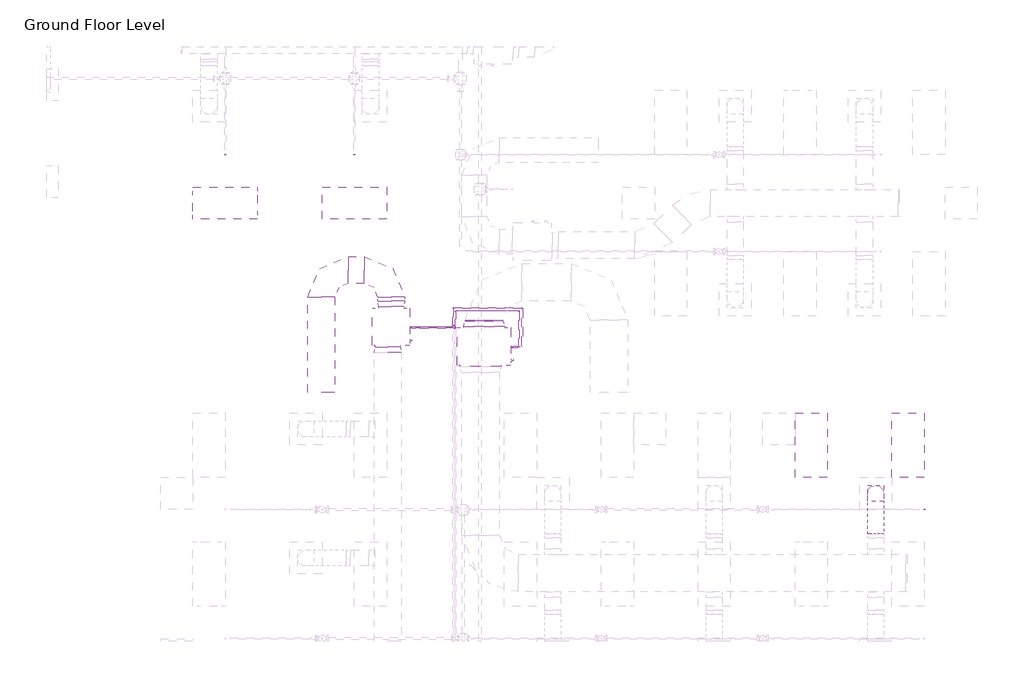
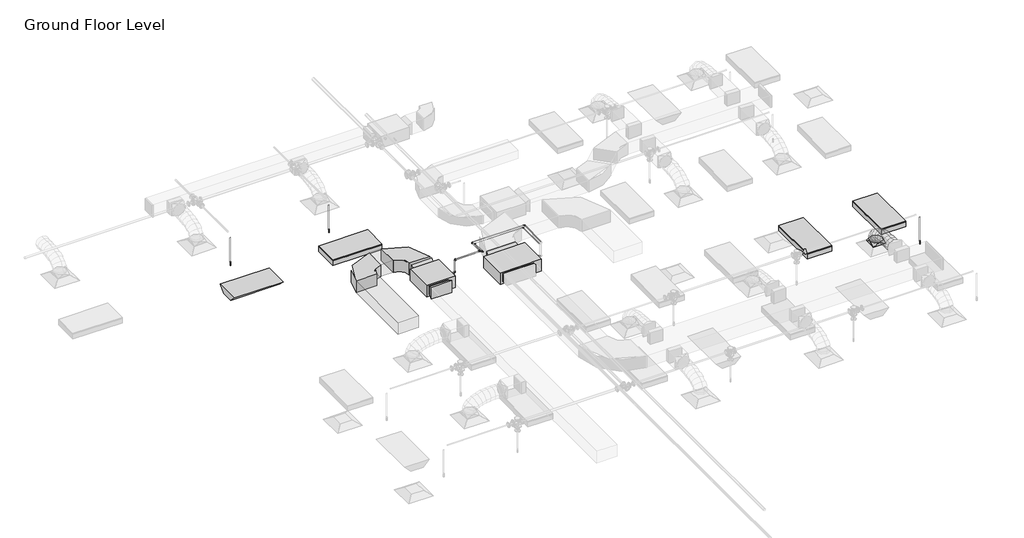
# One storey, part 33 of 68: 17 pipe segments, 14 pipe fittings, 6 duct fittings, 5 duct segments, 4 light fixtures, 3 fire suppression terminals, 2 proxies.
"""IFC4 building model written with IfcOpenShell, lengths in millimetres."""

from ifc_helpers import new_model, si_unit, point, frame, frame_2d, origin, place, context, project, spatial, polyline, circle_curve, ellipse_curve, trimmed, segment, composite_curve, outline, extrude, transform, mapped, element, save
from ifc_brep_helpers import plane_surface, cylinder_surface, advanced_brep
from components import fcu_daikin_iu_7e1df382, fcu_daikin_iu_bad131e0, m_rectangular_elbow_radius_1_w_abe20169, m_rectangular_transition_angle_45_degree_3cf6e25b, m_rectangular_transition_angle_45_degree_f7c2916c, m_rectangular_transition_angle_45_degree_603cf0b0, m_rectangular_to_round_transition_angle_45_degree_641efff0, m_sprinkler_dry_pendent_hosted_15_mm_dry_pendent_9bda8e11, m_emergency_recessed_lighting_fixture_600x1200_277_5b10b25d, m_troffer_light_parabolic_rectangular1_0600x1200mm_4_lamp_86473d4a, m_elbow_generic_standard_a088f956, m_elbow_generic_standard_2a704253, m_tee_generic_standard_cdc1cff5, m_tee_generic_standard_d9c36a1d, m_transition_generic_standard_6dc712c0, m_transition_generic_standard_b63c8674

model = new_model("IFC4")

# Units and contexts
model_context = context("Model", 3, world=origin())
ifc_project = project(units=[si_unit("LENGTHUNIT", "METRE", prefix="MILLI")], contexts=[model_context])

# Site, building, storey
site = spatial("IfcSite", under=ifc_project)
building = spatial("IfcBuilding", under=site)
storey = spatial("IfcBuildingStorey", under=building, Name="Ground Floor Level", Elevation=900.0)

# Proxies
placement = place(None, origin())
fcu_daikin_iu_shape = fcu_daikin_iu_7e1df382(model_context)
element("IfcBuildingElementProxy", 1, Name="FCU-DAIKIN IU : 7.2kW, 230V/50Hz/1Ph", ObjectType="FCU-DAIKIN IU : 7.2kW, 230V/50Hz/1Ph", at=placement, inside=storey, context=model_context, shape_type="MappedRepresentation", body=[
    mapped(fcu_daikin_iu_shape, transform((6073.4139492, -7933.9358641, 3934.0875), x_axis=(1.0, 0.0, 0.0), y_axis=(0.0, 1.0, 0.0), z_axis=(0.0, 0.0, 1.0))),
])
fcu_daikin_iu_2_shape = fcu_daikin_iu_bad131e0(model_context)
element("IfcBuildingElementProxy", 2, Name="FCU-DAIKIN IU : 4.5kW, 230V/50Hz/1Ph", ObjectType="FCU-DAIKIN IU : 4.5kW, 230V/50Hz/1Ph", at=placement, inside=storey, context=model_context, shape_type="MappedRepresentation", body=[
    mapped(fcu_daikin_iu_2_shape, transform((4345.6581888, -7565.0566353, 3934.0874218), x_axis=(1.0, 0.0, 0.0), y_axis=(0.0, 1.0, 0.0), z_axis=(0.0, 0.0, 1.0))),
])

# Duct fittings
m_rectangular_elbow_radius_1_w_shape = m_rectangular_elbow_radius_1_w_abe20169(model_context)
element("IfcDuctFitting", 3, ObjectType="M_Rectangular Elbow - Radius : 1 W", at=placement, inside=storey, context=model_context, shape_type="MappedRepresentation", body=[
    mapped(m_rectangular_elbow_radius_1_w_shape, transform((4345.6581888, -6509.6566353, 4075.2874218), x_axis=(0.0, 1.0, 0.0), y_axis=(-1.0, 0.0, 0.0), z_axis=(0.0, 0.0, 1.0))),
])
element("IfcDuctFitting", 4, ObjectType="M_Rectangular Elbow - Radius : 1 W", at=placement, inside=storey, context=model_context, shape_type="MappedRepresentation", body=[
    mapped(m_rectangular_elbow_radius_1_w_shape, transform((3045.6581888, -6509.6566353, 4075.2874218), x_axis=(-1.0, 0.0, 0.0), y_axis=(0.0, -1.0, 0.0), z_axis=(0.0, 0.0, 1.0))),
])
m_rectangular_transition_angle_45_degree_shape = m_rectangular_transition_angle_45_degree_3cf6e25b(model_context)
element("IfcDuctFitting", 5, ObjectType="M_Rectangular Transition - Angle : 45 Degree", at=placement, inside=storey, context=model_context, shape_type="MappedRepresentation", body=[
    mapped(m_rectangular_transition_angle_45_degree_shape, transform((4282.1581888, -7940.4566353, 4099.9999218), x_axis=(0.0, -1.0, 0.0), y_axis=(1.0, 0.0, 0.0), z_axis=(0.0, 0.0, 1.0))),
])
m_rectangular_transition_angle_45_degree_2_shape = m_rectangular_transition_angle_45_degree_f7c2916c(model_context)
element("IfcDuctFitting", 6, ObjectType="M_Rectangular Transition - Angle : 45 Degree", at=placement, inside=storey, context=model_context, shape_type="MappedRepresentation", body=[
    mapped(m_rectangular_transition_angle_45_degree_2_shape, transform((4345.6581888, -7189.6566353, 4075.2874218), x_axis=(0.0, 1.0, 0.0), y_axis=(-1.0, 0.0, 0.0), z_axis=(0.0, 0.0, 1.0))),
])
m_rectangular_transition_angle_45_degree_3_shape = m_rectangular_transition_angle_45_degree_603cf0b0(model_context)
element("IfcDuctFitting", 7, ObjectType="M_Rectangular Transition - Angle : 45 Degree", at=placement, inside=storey, context=model_context, shape_type="MappedRepresentation", body=[
    mapped(m_rectangular_transition_angle_45_degree_3_shape, transform((6073.4139492, -7558.5358641, 4075.2875), x_axis=(0.0, 1.0, 0.0), y_axis=(-1.0, 0.0, 0.0), z_axis=(0.0, 0.0, 1.0))),
])
m_rectangular_to_round_transition_angle_45_degree_shape = m_rectangular_to_round_transition_angle_45_degree_641efff0(model_context)
element("IfcDuctFitting", 8, ObjectType="M_Rectangular to Round Transition - Angle : 45 Degree", at=placement, inside=storey, context=model_context, shape_type="MappedRepresentation", body=[
    mapped(m_rectangular_to_round_transition_angle_45_degree_shape, transform((13352.7672395, -10664.7846466, 3751.6), x_axis=(0.0, 0.0, 1.0), y_axis=(-1.0, 0.0, 0.0), z_axis=(0.0, -1.0, 0.0))),
])

# Duct segments
element("IfcDuctSegment", 9, ObjectType="Flex - Round", at=placement, inside=storey, context=model_context, shape_type="AdvancedBrep", body=[
    advanced_brep(
    [(13502.7672395, -10664.7846466, 3826.6), (13352.7672395, -10814.7846466, 3826.6), (13202.7672395, -10664.7846466, 3826.6), (13352.7672395, -10514.7846466, 3826.6), (13502.7672395, -10664.7846466, 3857.9382361), (13352.7672395, -10814.7846466, 3832.2943726), (13202.7672395, -10664.7846466, 3857.9382361), (13352.7672395, -10514.7846466, 3883.5820996), (13502.7672395, -10681.8009258, 3906.2508008), (13352.7672395, -10815.5381175, 3834.4336246), (13202.7672395, -10681.8009258, 3906.2508008), (13352.7672395, -10548.0637341, 3978.0679769), (13502.7672395, -10728.9857498, 3968.710741), (13352.7672395, -10833.1895095, 3857.7992917), (13202.7672395, -10728.9857498, 3968.710741), (13352.7672395, -10624.78199, 4079.6221903), (13502.7672395, -10800.5430984, 4016.0679312), (13352.7672395, -10869.4737825, 3881.8124958), (13202.7672395, -10800.5430984, 4016.0679312), (13352.7672395, -10731.6124143, 4150.3233665), (13502.7672395, -10890.6769515, 4050.4104815), (13352.7672395, -10934.2340294, 3906.4872652), (13202.7672395, -10890.6769515, 4050.4104815), (13352.7672395, -10847.1198737, 4194.3336978), (13502.7672395, -10993.591289, 4073.8265025), (13352.7672395, -11020.1487195, 3926.0353694), (13202.7672395, -10993.591289, 4073.8265025), (13352.7672395, -10967.0338584, 4221.6176356), (13502.7672395, -11103.4900905, 4088.4041045), (13352.7672395, -11118.6379564, 3939.0995418), (13202.7672395, -11103.4900905, 4088.4041045), (13352.7672395, -11088.3422246, 4237.7086671), (13502.7672395, -11214.5773359, 4096.2313978), (13352.7672395, -11222.0803018, 3946.3881695), (13202.7672395, -11214.5773359, 4096.2313978), (13352.7672395, -11207.0743701, 4246.074626), (13502.7672395, -11321.0570051, 4099.3964928), (13352.7672395, -11323.7471101, 3949.4102029), (13202.7672395, -11321.0570051, 4099.3964928), (13352.7672395, -11318.3669002, 4249.3827828), (13502.7672395, -11417.1330779, 4099.9875), (13352.7672395, -11416.2103779, 4249.9846621), (13202.7672395, -11417.1330779, 4099.9875), (13352.7672395, -11418.0557779, 3949.9903379)],
    [
        (0, 1, circle_curve(frame((13352.7672395, -10664.7846466, 3826.6), z_axis=(0.0, 0.0, -1.0), x_axis=(1.0, 0.0, 0.0)), 150.0)),
        (1, 2, circle_curve(frame((13352.7672395, -10664.7846466, 3826.6), z_axis=(0.0, 0.0, -1.0), x_axis=(1.0, 0.0, 0.0)), 150.0)),
        (2, 3, circle_curve(frame((13352.7672395, -10664.7846466, 3826.6), z_axis=(0.0, 0.0, -1.0), x_axis=(1.0, 0.0, 0.0)), 150.0)),
        (3, 0, circle_curve(frame((13352.7672395, -10664.7846466, 3826.6), z_axis=(0.0, 0.0, -1.0), x_axis=(1.0, 0.0, 0.0)), 150.0)),
        (0, 4),
        (4, 5, ellipse_curve(frame((13352.7672395, -10664.7846466, 3857.9382361), z_axis=(0.0, 0.16851424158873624, -0.9856992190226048), x_axis=(0.0, -0.9856992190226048, -0.16851424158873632)), 152.1762391, 150.0)),
        (5, 1),
        (5, 6, ellipse_curve(frame((13352.7672395, -10664.7846466, 3857.9382361), z_axis=(0.0, 0.16851424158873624, -0.9856992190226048), x_axis=(0.0, -0.9856992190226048, -0.16851424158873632)), 152.1762391, 150.0)),
        (6, 2),
        (6, 7, ellipse_curve(frame((13352.7672395, -10664.7846466, 3857.9382361), z_axis=(0.0, 0.16851424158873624, -0.9856992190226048), x_axis=(0.0, -0.9856992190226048, -0.16851424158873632)), 152.1762391, 150.0)),
        (7, 3),
        (7, 4, ellipse_curve(frame((13352.7672395, -10664.7846466, 3857.9382361), z_axis=(0.0, 0.16851424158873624, -0.9856992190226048), x_axis=(0.0, -0.9856992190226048, -0.16851424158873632)), 152.1762391, 150.0)),
        (4, 8),
        (8, 9, ellipse_curve(frame((13352.7672395, -10681.8009258, 3906.2508008), z_axis=(0.0, 0.4731028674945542, -0.8810071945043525), x_axis=(0.0, -0.8810071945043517, -0.47310286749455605)), 151.80034, 150.0)),
        (9, 5),
        (9, 10, ellipse_curve(frame((13352.7672395, -10681.8009258, 3906.2508008), z_axis=(0.0, 0.4731028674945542, -0.8810071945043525), x_axis=(0.0, -0.8810071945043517, -0.47310286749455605)), 151.80034, 150.0)),
        (10, 6),
        (10, 11, ellipse_curve(frame((13352.7672395, -10681.8009258, 3906.2508008), z_axis=(0.0, 0.4731028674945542, -0.8810071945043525), x_axis=(0.0, -0.8810071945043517, -0.47310286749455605)), 151.80034, 150.0)),
        (11, 7),
        (11, 8, ellipse_curve(frame((13352.7672395, -10681.8009258, 3906.2508008), z_axis=(0.0, 0.4731028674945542, -0.8810071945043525), x_axis=(0.0, -0.8810071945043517, -0.47310286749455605)), 151.80034, 150.0)),
        (8, 12),
        (12, 13, ellipse_curve(frame((13352.7672395, -10728.9857498, 3968.710741), z_axis=(0.0, 0.7288014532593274, -0.6847250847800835), x_axis=(0.0, -0.6847250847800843, -0.7288014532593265)), 152.1833536, 150.0)),
        (13, 9),
        (13, 14, ellipse_curve(frame((13352.7672395, -10728.9857498, 3968.710741), z_axis=(0.0, 0.7288014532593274, -0.6847250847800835), x_axis=(0.0, -0.6847250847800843, -0.7288014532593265)), 152.1833536, 150.0)),
        (14, 10),
        (14, 15, ellipse_curve(frame((13352.7672395, -10728.9857498, 3968.710741), z_axis=(0.0, 0.7288014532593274, -0.6847250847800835), x_axis=(0.0, -0.6847250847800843, -0.7288014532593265)), 152.1833536, 150.0)),
        (15, 11),
        (15, 12, ellipse_curve(frame((13352.7672395, -10728.9857498, 3968.710741), z_axis=(0.0, 0.7288014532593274, -0.6847250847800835), x_axis=(0.0, -0.6847250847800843, -0.7288014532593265)), 152.1833536, 150.0)),
        (12, 16),
        (16, 17, ellipse_curve(frame((13352.7672395, -10800.5430984, 4016.0679312), z_axis=(0.0, 0.8895974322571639, -0.45674545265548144), x_axis=(0.0, -0.45674545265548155, -0.889597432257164)), 150.9170671, 150.0)),
        (17, 13),
        (17, 18, ellipse_curve(frame((13352.7672395, -10800.5430984, 4016.0679312), z_axis=(0.0, 0.8895974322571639, -0.45674545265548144), x_axis=(0.0, -0.45674545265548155, -0.889597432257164)), 150.9170671, 150.0)),
        (18, 14),
        (18, 19, ellipse_curve(frame((13352.7672395, -10800.5430984, 4016.0679312), z_axis=(0.0, 0.8895974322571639, -0.45674545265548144), x_axis=(0.0, -0.45674545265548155, -0.889597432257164)), 150.9170671, 150.0)),
        (19, 15),
        (19, 16, ellipse_curve(frame((13352.7672395, -10800.5430984, 4016.0679312), z_axis=(0.0, 0.8895974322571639, -0.45674545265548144), x_axis=(0.0, -0.45674545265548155, -0.889597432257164)), 150.9170671, 150.0)),
        (16, 20),
        (20, 21, ellipse_curve(frame((13352.7672395, -10890.6769515, 4050.4104815), z_axis=(0.0, 0.9571277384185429, -0.28966617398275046), x_axis=(0.0, -0.2896661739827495, -0.9571277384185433)), 150.3699146, 150.0)),
        (21, 17),
        (21, 22, ellipse_curve(frame((13352.7672395, -10890.6769515, 4050.4104815), z_axis=(0.0, 0.9571277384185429, -0.28966617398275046), x_axis=(0.0, -0.2896661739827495, -0.9571277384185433)), 150.3699146, 150.0)),
        (22, 18),
        (22, 23, ellipse_curve(frame((13352.7672395, -10890.6769515, 4050.4104815), z_axis=(0.0, 0.9571277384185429, -0.28966617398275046), x_axis=(0.0, -0.2896661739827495, -0.9571277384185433)), 150.3699146, 150.0)),
        (23, 19),
        (23, 20, ellipse_curve(frame((13352.7672395, -10890.6769515, 4050.4104815), z_axis=(0.0, 0.9571277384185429, -0.28966617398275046), x_axis=(0.0, -0.2896661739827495, -0.9571277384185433)), 150.3699146, 150.0)),
        (20, 24),
        (24, 25, ellipse_curve(frame((13352.7672395, -10993.591289, 4073.8265025), z_axis=(0.0, 0.9842355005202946, -0.17686288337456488), x_axis=(0.0, -0.17686288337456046, -0.9842355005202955)), 150.1583036, 150.0)),
        (25, 21),
        (25, 26, ellipse_curve(frame((13352.7672395, -10993.591289, 4073.8265025), z_axis=(0.0, 0.9842355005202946, -0.17686288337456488), x_axis=(0.0, -0.17686288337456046, -0.9842355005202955)), 150.1583036, 150.0)),
        (26, 22),
        (26, 27, ellipse_curve(frame((13352.7672395, -10993.591289, 4073.8265025), z_axis=(0.0, 0.9842355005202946, -0.17686288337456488), x_axis=(0.0, -0.17686288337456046, -0.9842355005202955)), 150.1583036, 150.0)),
        (27, 23),
        (27, 24, ellipse_curve(frame((13352.7672395, -10993.591289, 4073.8265025), z_axis=(0.0, 0.9842355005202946, -0.17686288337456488), x_axis=(0.0, -0.17686288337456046, -0.9842355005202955)), 150.1583036, 150.0)),
        (24, 28),
        (28, 29, ellipse_curve(frame((13352.7672395, -11103.4900905, 4088.4041045), z_axis=(0.0, 0.9948927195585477, -0.10093798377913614), x_axis=(0.0, -0.1009379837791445, -0.9948927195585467)), 150.0710174, 150.0)),
        (29, 25),
        (29, 30, ellipse_curve(frame((13352.7672395, -11103.4900905, 4088.4041045), z_axis=(0.0, 0.9948927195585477, -0.10093798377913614), x_axis=(0.0, -0.1009379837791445, -0.9948927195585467)), 150.0710174, 150.0)),
        (30, 26),
        (30, 31, ellipse_curve(frame((13352.7672395, -11103.4900905, 4088.4041045), z_axis=(0.0, 0.9948927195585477, -0.10093798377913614), x_axis=(0.0, -0.1009379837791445, -0.9948927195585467)), 150.0710174, 150.0)),
        (31, 27),
        (31, 28, ellipse_curve(frame((13352.7672395, -11103.4900905, 4088.4041045), z_axis=(0.0, 0.9948927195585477, -0.10093798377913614), x_axis=(0.0, -0.1009379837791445, -0.9948927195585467)), 150.0710174, 150.0)),
        (28, 32),
        (32, 33, ellipse_curve(frame((13352.7672395, -11214.5773359, 4096.2313978), z_axis=(0.0, 0.9987487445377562, -0.05000945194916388), x_axis=(0.0, -0.05000945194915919, -0.9987487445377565)), 150.0309553, 150.0)),
        (33, 29),
        (33, 34, ellipse_curve(frame((13352.7672395, -11214.5773359, 4096.2313978), z_axis=(0.0, 0.9987487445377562, -0.05000945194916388), x_axis=(0.0, -0.05000945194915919, -0.9987487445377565)), 150.0309553, 150.0)),
        (34, 30),
        (34, 35, ellipse_curve(frame((13352.7672395, -11214.5773359, 4096.2313978), z_axis=(0.0, 0.9987487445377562, -0.05000945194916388), x_axis=(0.0, -0.05000945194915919, -0.9987487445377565)), 150.0309553, 150.0)),
        (35, 31),
        (35, 32, ellipse_curve(frame((13352.7672395, -11214.5773359, 4096.2313978), z_axis=(0.0, 0.9987487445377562, -0.05000945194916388), x_axis=(0.0, -0.05000945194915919, -0.9987487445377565)), 150.0309553, 150.0)),
        (32, 36),
        (36, 37, ellipse_curve(frame((13352.7672395, -11321.0570051, 4099.3964928), z_axis=(0.0, 0.9998391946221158, -0.017932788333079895), x_axis=(0.0, -0.017932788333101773, -0.9998391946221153)), 150.0104124, 150.0)),
        (37, 33),
        (37, 38, ellipse_curve(frame((13352.7672395, -11321.0570051, 4099.3964928), z_axis=(0.0, 0.9998391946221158, -0.017932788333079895), x_axis=(0.0, -0.017932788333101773, -0.9998391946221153)), 150.0104124, 150.0)),
        (38, 34),
        (38, 39, ellipse_curve(frame((13352.7672395, -11321.0570051, 4099.3964928), z_axis=(0.0, 0.9998391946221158, -0.017932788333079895), x_axis=(0.0, -0.017932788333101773, -0.9998391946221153)), 150.0104124, 150.0)),
        (39, 35),
        (39, 36, ellipse_curve(frame((13352.7672395, -11321.0570051, 4099.3964928), z_axis=(0.0, 0.9998391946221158, -0.017932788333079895), x_axis=(0.0, -0.017932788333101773, -0.9998391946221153)), 150.0104124, 150.0)),
        (40, 41, circle_curve(frame((13352.7672395, -11417.1330779, 4099.9875), z_axis=(0.0, -0.999981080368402, 0.0061513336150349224), x_axis=(1.0, 0.0, 0.0)), 150.0)),
        (41, 42, circle_curve(frame((13352.7672395, -11417.1330779, 4099.9875), z_axis=(0.0, -0.999981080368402, 0.0061513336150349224), x_axis=(1.0, 0.0, 0.0)), 150.0)),
        (42, 43, circle_curve(frame((13352.7672395, -11417.1330779, 4099.9875), z_axis=(0.0, -0.999981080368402, 0.0061513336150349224), x_axis=(1.0, 0.0, 0.0)), 150.0)),
        (43, 40, circle_curve(frame((13352.7672395, -11417.1330779, 4099.9875), z_axis=(0.0, -0.999981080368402, 0.0061513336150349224), x_axis=(1.0, 0.0, 0.0)), 150.0)),
        (36, 40),
        (43, 37),
        (42, 38),
        (41, 39),
    ],
    [
        plane_surface(frame((13352.7672395, -10814.7846466, 3826.6), z_axis=(0.0, 0.0, -1.0), x_axis=(1.0, 0.0, 0.0))),
        cylinder_surface(frame((13352.7672395, -10664.7846466, 3826.6), z_axis=(0.0, 0.0, -1.0), x_axis=(1.0, 0.0, 0.0)), 150.0),
        cylinder_surface(frame((13352.7672395, -10664.7846466, 3857.9382361), z_axis=(0.0, 0.3322087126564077, -0.943205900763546), x_axis=(1.0, 0.0, 0.0)), 150.0),
        cylinder_surface(frame((13352.7672395, -10681.8009258, 3906.2508008), z_axis=(0.0, 0.6027750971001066, -0.797911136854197), x_axis=(1.0, 0.0, 0.0)), 150.0),
        cylinder_surface(frame((13352.7672395, -10728.9857498, 3968.710741), z_axis=(0.0, 0.8339157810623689, -0.5518917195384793), x_axis=(1.0, 0.0, 0.0)), 150.0),
        cylinder_surface(frame((13352.7672395, -10800.5430984, 4016.0679312), z_axis=(0.0, 0.9344675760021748, -0.3560482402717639), x_axis=(1.0, 0.0, 0.0)), 150.0),
        cylinder_surface(frame((13352.7672395, -10890.6769515, 4050.4104815), z_axis=(0.0, 0.9750787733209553, -0.22185893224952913), x_axis=(1.0, 0.0, 0.0)), 150.0),
        cylinder_surface(frame((13352.7672395, -10993.591289, 4073.8265025), z_axis=(0.0, 0.9913169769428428, -0.13149392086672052), x_axis=(1.0, 0.0, 0.0)), 150.0),
        cylinder_surface(frame((13352.7672395, -11103.4900905, 4088.4041045), z_axis=(0.0, 0.9975268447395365, -0.07028651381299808), x_axis=(1.0, 0.0, 0.0)), 150.0),
        cylinder_surface(frame((13352.7672395, -11214.5773359, 4096.2313978), z_axis=(0.0, 0.999558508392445, -0.029711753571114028), x_axis=(1.0, 0.0, 0.0)), 150.0),
        plane_surface(frame((13352.7672395, -11418.0557779, 3949.9903379), z_axis=(0.0, -0.999981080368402, 0.006151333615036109), x_axis=(1.0, 0.0, 0.0))),
        cylinder_surface(frame((13352.7672395, -11321.0570051, 4099.3964928), z_axis=(0.0, 0.999981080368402, -0.0061513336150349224), x_axis=(1.0, 0.0, 0.0)), 150.0),
    ],
    [
        (0, [[1, 2, 3, 4]]),
        (1, [[-1, 5, 6, 7]]),
        (1, [[-2, -7, 8, 9]]),
        (1, [[-3, -9, 10, 11]]),
        (1, [[-4, -11, 12, -5]]),
        (2, [[-6, 13, 14, 15]]),
        (2, [[-8, -15, 16, 17]]),
        (2, [[-10, -17, 18, 19]]),
        (2, [[-12, -19, 20, -13]]),
        (3, [[-14, 21, 22, 23]]),
        (3, [[-16, -23, 24, 25]]),
        (3, [[-18, -25, 26, 27]]),
        (3, [[-20, -27, 28, -21]]),
        (4, [[-22, 29, 30, 31]]),
        (4, [[-24, -31, 32, 33]]),
        (4, [[-26, -33, 34, 35]]),
        (4, [[-28, -35, 36, -29]]),
        (5, [[-30, 37, 38, 39]]),
        (5, [[-32, -39, 40, 41]]),
        (5, [[-34, -41, 42, 43]]),
        (5, [[-36, -43, 44, -37]]),
        (6, [[-38, 45, 46, 47]]),
        (6, [[-40, -47, 48, 49]]),
        (6, [[-42, -49, 50, 51]]),
        (6, [[-44, -51, 52, -45]]),
        (7, [[-46, 53, 54, 55]]),
        (7, [[-48, -55, 56, 57]]),
        (7, [[-50, -57, 58, 59]]),
        (7, [[-52, -59, 60, -53]]),
        (8, [[-54, 61, 62, 63]]),
        (8, [[-56, -63, 64, 65]]),
        (8, [[-58, -65, 66, 67]]),
        (8, [[-60, -67, 68, -61]]),
        (9, [[-62, 69, 70, 71]]),
        (9, [[-64, -71, 72, 73]]),
        (9, [[-66, -73, 74, 75]]),
        (9, [[-68, -75, 76, -69]]),
        (10, [[77, 78, 79, 80]]),
        (11, [[-70, 81, -80, 82]]),
        (11, [[-72, -82, -79, 83]]),
        (11, [[-74, -83, -78, 84]]),
        (11, [[-76, -84, -77, -81]]),
    ],
),
])
element("IfcDuctSegment", 10, ObjectType="Radius Elbows / Taps", at=placement, inside=storey, context=model_context, shape_type="SweptSolid", body=[
    extrude(outline(polyline([(4595.6581888, -7086.2075842), (4095.6581888, -7086.2075842), (4095.6581888, -7009.6566353), (4595.6581888, -7009.6566353), (4595.6581888, -7086.2075842)])), frame((0.0, 0.0, 3925.2874218), z_axis=(0.0, 0.0, 1.0), x_axis=(1.0, 0.0, 0.0)), (0.0, 0.0, 1.0), 300.0),
])
element("IfcDuctSegment", 11, ObjectType="Radius Elbows / Taps", at=placement, inside=storey, context=model_context, shape_type="SweptSolid", body=[
    extrude(outline(polyline([(3845.6581888, -6259.6566353), (3845.6581888, -6759.6566353), (3545.6581888, -6759.6566353), (3545.6581888, -6259.6566353), (3845.6581888, -6259.6566353)])), frame((0.0, 0.0, 3925.2874218), z_axis=(0.0, 0.0, 1.0), x_axis=(1.0, 0.0, 0.0)), (0.0, 0.0, 1.0), 300.0),
])
element("IfcDuctSegment", 12, ObjectType="Radius Elbows / Taps", at=placement, inside=storey, context=model_context, shape_type="SweptSolid", body=[
    extrude(outline(polyline([(2795.6581888, -7009.6566353), (3295.6581888, -7009.6566353), (3295.6581888, -8789.6566353), (2795.6581888, -8789.6566353), (2795.6581888, -7009.6566353)])), frame((0.0, 0.0, 3925.2874218), z_axis=(0.0, 0.0, 1.0), x_axis=(1.0, 0.0, 0.0)), (0.0, 0.0, 1.0), 300.0),
])
element("IfcDuctSegment", 13, ObjectType="Radius Elbows / Taps", at=placement, inside=storey, context=model_context, shape_type="SweptSolid", body=[
    extrude(outline(polyline([(6423.4139492, -7455.086813), (5723.4139492, -7455.086813), (5723.4139492, -7438.5358641), (6423.4139492, -7438.5358641), (6423.4139492, -7455.086813)])), frame((0.0, 0.0, 3925.2875), z_axis=(0.0, 0.0, 1.0), x_axis=(1.0, 0.0, 0.0)), (0.0, 0.0, 1.0), 300.0),
])

# Fire suppression terminals
m_sprinkler_dry_pendent_hosted_15_mm_dry_pendent_shape = m_sprinkler_dry_pendent_hosted_15_mm_dry_pendent_9bda8e11(model_context)
element("IfcFireSuppressionTerminal", 14, ObjectType="M_Sprinkler - Dry - Pendent - Hosted : 15 mm Dry Pendent", at=placement, inside=storey, context=model_context, shape_type="MappedRepresentation", body=[
    mapped(m_sprinkler_dry_pendent_hosted_15_mm_dry_pendent_shape, transform((3662.7672395, -4364.7846466, 3650.0), x_axis=(1.0, 0.0, 0.0), y_axis=(0.0, -1.0, 0.0), z_axis=(0.0, 0.0, -1.0))),
])
element("IfcFireSuppressionTerminal", 15, ObjectType="M_Sprinkler - Dry - Pendent - Hosted : 15 mm Dry Pendent", at=placement, inside=storey, context=model_context, shape_type="MappedRepresentation", body=[
    mapped(m_sprinkler_dry_pendent_hosted_15_mm_dry_pendent_shape, transform((1262.7672395, -4364.7846466, 3650.0), x_axis=(1.0, 0.0, 0.0), y_axis=(0.0, -1.0, 0.0), z_axis=(0.0, 0.0, -1.0))),
])
element("IfcFireSuppressionTerminal", 16, ObjectType="M_Sprinkler - Dry - Pendent - Hosted : 15 mm Dry Pendent", at=placement, inside=storey, context=model_context, shape_type="MappedRepresentation", body=[
    mapped(m_sprinkler_dry_pendent_hosted_15_mm_dry_pendent_shape, transform((14252.7672395, -10964.7846466, 3650.0), x_axis=(1.0, 0.0, 0.0), y_axis=(0.0, -1.0, 0.0), z_axis=(0.0, 0.0, -1.0))),
])

# Light fixtures
m_emergency_recessed_lighting_fixture_600x1200_277_shape = m_emergency_recessed_lighting_fixture_600x1200_277_5b10b25d(model_context)
element("IfcLightFixture", 17, ObjectType="M_Emergency Recessed Lighting Fixture : 600x1200 - 277", at=placement, inside=storey, context=model_context, shape_type="MappedRepresentation", body=[
    mapped(m_emergency_recessed_lighting_fixture_600x1200_277_shape, transform((662.7672395, -4964.7846466, 3650.0), x_axis=(1.0, 0.0, 0.0), y_axis=(0.0, 1.0, 0.0), z_axis=(0.0, 0.0, 1.0))),
])
m_troffer_light_parabolic_rectangular1_0600x1200mm_4_lamp_shape = m_troffer_light_parabolic_rectangular1_0600x1200mm_4_lamp_86473d4a(model_context)
element("IfcLightFixture", 18, ObjectType="M_Troffer Light - Parabolic Rectangular1 : 0600x1200mm(4 Lamp) - 277V 2", at=placement, inside=storey, context=model_context, shape_type="MappedRepresentation", body=[
    mapped(m_troffer_light_parabolic_rectangular1_0600x1200mm_4_lamp_shape, transform((13893.3013074, -9746.081145, 3650.0), x_axis=(0.0, 1.0, 0.0), y_axis=(-1.0, 0.0, 0.0), z_axis=(0.0, 0.0, 1.0))),
])
element("IfcLightFixture", 19, ObjectType="M_Troffer Light - Parabolic Rectangular1 : 0600x1200mm(4 Lamp) - 277V 2", at=placement, inside=storey, context=model_context, shape_type="MappedRepresentation", body=[
    mapped(m_troffer_light_parabolic_rectangular1_0600x1200mm_4_lamp_shape, transform((12093.3013074, -9746.081145, 3650.0), x_axis=(0.0, 1.0, 0.0), y_axis=(-1.0, 0.0, 0.0), z_axis=(0.0, 0.0, 1.0))),
])
element("IfcLightFixture", 20, ObjectType="M_Troffer Light - Parabolic Rectangular1 : 0600x1200mm(4 Lamp) - 277V 2", at=placement, inside=storey, context=model_context, shape_type="MappedRepresentation", body=[
    mapped(m_troffer_light_parabolic_rectangular1_0600x1200mm_4_lamp_shape, transform((3681.4707411, -5205.3187145, 3650.0), x_axis=(1.0, 0.0, 0.0), y_axis=(0.0, 1.0, 0.0), z_axis=(0.0, 0.0, 1.0))),
])

# Pipe fittings
m_elbow_generic_standard_shape = m_elbow_generic_standard_a088f956(model_context)
element("IfcPipeFitting", 21, ObjectType="M_Elbow - Generic : Standard", at=placement, inside=storey, context=model_context, shape_type="MappedRepresentation", body=[
    mapped(m_elbow_generic_standard_shape, transform((4878.7581888, -7565.0566353, 4034.0874218), x_axis=(1.0, 0.0, 0.0), y_axis=(0.0, 0.0, 1.0), z_axis=(0.0, -1.0, 0.0))),
])
element("IfcPipeFitting", 22, ObjectType="M_Elbow - Generic : Standard", at=placement, inside=storey, context=model_context, shape_type="MappedRepresentation", body=[
    mapped(m_elbow_generic_standard_shape, transform((4878.7581888, -7565.0566353, 4390.0), x_axis=(0.0, 0.0, 1.0), y_axis=(1.0, 0.0, 0.0), z_axis=(0.0, 1.0, 0.0))),
])
element("IfcPipeFitting", 23, ObjectType="M_Elbow - Generic : Standard", at=placement, inside=storey, context=model_context, shape_type="MappedRepresentation", body=[
    mapped(m_elbow_generic_standard_shape, transform((5497.8951827, -7216.0289893, 4390.0), x_axis=(-1.0, 0.0, 0.0), y_axis=(0.0, -1.0, 0.0), z_axis=(0.0, 0.0, 1.0))),
])
element("IfcPipeFitting", 24, ObjectType="M_Elbow - Generic : Standard", at=placement, inside=storey, context=model_context, shape_type="MappedRepresentation", body=[
    mapped(m_elbow_generic_standard_shape, transform((6782.8951827, -7216.0289893, 4390.0), x_axis=(0.0, 1.0, 0.0), y_axis=(-1.0, 0.0, 0.0), z_axis=(0.0, 0.0, 1.0))),
])
m_elbow_generic_standard_2_shape = m_elbow_generic_standard_2a704253(model_context)
element("IfcPipeFitting", 25, ObjectType="M_Elbow - Generic : Standard", at=placement, inside=storey, context=model_context, shape_type="MappedRepresentation", body=[
    mapped(m_elbow_generic_standard_2_shape, transform((4878.7581888, -7590.0566353, 4084.8874218), x_axis=(1.0, 0.0, 0.0), y_axis=(0.0, 0.0, 1.0), z_axis=(0.0, -1.0, 0.0))),
])
element("IfcPipeFitting", 26, ObjectType="M_Elbow - Generic : Standard", at=placement, inside=storey, context=model_context, shape_type="MappedRepresentation", body=[
    mapped(m_elbow_generic_standard_2_shape, transform((4878.7581888, -7590.0566353, 4377.5), x_axis=(0.0, 0.0, 1.0), y_axis=(1.0, 0.0, 0.0), z_axis=(0.0, 1.0, 0.0))),
])
element("IfcPipeFitting", 27, ObjectType="M_Elbow - Generic : Standard", at=placement, inside=storey, context=model_context, shape_type="MappedRepresentation", body=[
    mapped(m_elbow_generic_standard_2_shape, transform((5543.9904113, -7267.2400492, 4377.5), x_axis=(-1.0, 0.0, 0.0), y_axis=(0.0, -1.0, 0.0), z_axis=(0.0, 0.0, 1.0))),
])
element("IfcPipeFitting", 28, ObjectType="M_Elbow - Generic : Standard", at=placement, inside=storey, context=model_context, shape_type="MappedRepresentation", body=[
    mapped(m_elbow_generic_standard_2_shape, transform((6723.9904113, -7267.2400492, 4377.5), x_axis=(0.0, 1.0, 0.0), y_axis=(-1.0, 0.0, 0.0), z_axis=(0.0, 0.0, 1.0))),
])
m_tee_generic_standard_shape = m_tee_generic_standard_cdc1cff5(model_context)
element("IfcPipeFitting", 29, ObjectType="M_Tee - Generic : Standard", at=placement, inside=storey, context=model_context, shape_type="MappedRepresentation", body=[
    mapped(m_tee_generic_standard_shape, transform((5497.8951827, -7565.0566353, 4390.0), x_axis=(0.0, -1.0, 0.0), y_axis=(1.0, 0.0, 0.0), z_axis=(0.0, 0.0, 1.0))),
])
m_tee_generic_standard_2_shape = m_tee_generic_standard_d9c36a1d(model_context)
element("IfcPipeFitting", 30, ObjectType="M_Tee - Generic : Standard", at=placement, inside=storey, context=model_context, shape_type="MappedRepresentation", body=[
    mapped(m_tee_generic_standard_2_shape, transform((5543.9904113, -7590.0566353, 4377.5), x_axis=(0.0, -1.0, 0.0), y_axis=(1.0, 0.0, 0.0), z_axis=(0.0, 0.0, 1.0))),
])
m_transition_generic_standard_shape = m_transition_generic_standard_6dc712c0(model_context)
element("IfcPipeFitting", 31, ObjectType="M_Transition - Generic : Standard", at=placement, inside=storey, context=model_context, shape_type="MappedRepresentation", body=[
    mapped(m_transition_generic_standard_shape, transform((5475.6701827, -7565.0566353, 4390.0), x_axis=(-1.0, 0.0, 0.0), y_axis=(0.0, -1.0, 0.0), z_axis=(0.0, 0.0, 1.0))),
])
element("IfcPipeFitting", 32, ObjectType="M_Transition - Generic : Standard", at=placement, inside=storey, context=model_context, shape_type="MappedRepresentation", body=[
    mapped(m_transition_generic_standard_shape, transform((5497.8951827, -7542.8316353, 4390.0), x_axis=(0.0, 1.0, 0.0), y_axis=(-1.0, 0.0, 0.0), z_axis=(0.0, 0.0, 1.0))),
])
m_transition_generic_standard_2_shape = m_transition_generic_standard_b63c8674(model_context)
element("IfcPipeFitting", 33, ObjectType="M_Transition - Generic : Standard", at=placement, inside=storey, context=model_context, shape_type="MappedRepresentation", body=[
    mapped(m_transition_generic_standard_2_shape, transform((5524.9529113, -7590.0566353, 4377.5), x_axis=(-1.0, 0.0, 0.0), y_axis=(0.0, -1.0, 0.0), z_axis=(0.0, 0.0, 1.0))),
])
element("IfcPipeFitting", 34, ObjectType="M_Transition - Generic : Standard", at=placement, inside=storey, context=model_context, shape_type="MappedRepresentation", body=[
    mapped(m_transition_generic_standard_2_shape, transform((5543.9904113, -7571.0191353, 4377.5), x_axis=(0.0, 1.0, 0.0), y_axis=(-1.0, 0.0, 0.0), z_axis=(0.0, 0.0, 1.0))),
])

# Pipe segments
element("IfcPipeSegment", 35, ObjectType="Copper", at=placement, inside=storey, context=model_context, shape_type="SweptSolid", body=[
    extrude(outline(composite_curve([segment(trimmed(circle_curve(frame_2d((4390.0, 5497.8951827)), 6.5), [point((4390.0, 5504.3951827))], [point((4396.5, 5497.8951827))], False, "CARTESIAN"), True, "CONTINUOUS"), segment(trimmed(circle_curve(frame_2d((4390.0, 5497.8951827)), 6.5), [point((4396.5, 5497.8951827))], [point((4390.0, 5491.3951827))], False, "CARTESIAN"), True, "CONTINUOUS"), segment(trimmed(circle_curve(frame_2d((4390.0, 5497.8951827)), 6.5), [point((4390.0, 5491.3951827))], [point((4383.5, 5497.8951827))], False, "CARTESIAN"), True, "CONTINUOUS"), segment(trimmed(circle_curve(frame_2d((4390.0, 5497.8951827)), 6.5), [point((4383.5, 5497.8951827))], [point((4390.0, 5504.3951827))], False, "CARTESIAN"), True, "CONTINUOUS")], self_intersect=False)), frame((0.0, -7538.0691353, 0.0), z_axis=(0.0, 1.0, 0.0), x_axis=(0.0, 0.0, 1.0)), (0.0, 0.0, 1.0), 307.7526461),
])
element("IfcPipeSegment", 36, ObjectType="Copper", at=placement, inside=storey, context=model_context, shape_type="SweptSolid", body=[
    extrude(outline(composite_curve([segment(trimmed(circle_curve(frame_2d((-7590.0566353, 4084.8874218)), 3.35), [point((-7593.4066353, 4084.8874218))], [point((-7590.0566353, 4088.2374218))], False, "CARTESIAN"), True, "CONTINUOUS"), segment(trimmed(circle_curve(frame_2d((-7590.0566353, 4084.8874218)), 3.35), [point((-7590.0566353, 4088.2374218))], [point((-7586.7066353, 4084.8874218))], False, "CARTESIAN"), True, "CONTINUOUS"), segment(trimmed(circle_curve(frame_2d((-7590.0566353, 4084.8874218)), 3.35), [point((-7586.7066353, 4084.8874218))], [point((-7590.0566353, 4081.5374218))], False, "CARTESIAN"), True, "CONTINUOUS"), segment(trimmed(circle_curve(frame_2d((-7590.0566353, 4084.8874218)), 3.35), [point((-7590.0566353, 4081.5374218))], [point((-7593.4066353, 4084.8874218))], False, "CARTESIAN"), True, "CONTINUOUS")], self_intersect=False)), frame((4733.7581888, 0.0, 0.0), z_axis=(1.0, 0.0, 0.0), x_axis=(0.0, 1.0, 0.0)), (0.0, 0.0, 1.0), 133.8625),
])
element("IfcPipeSegment", 37, ObjectType="Copper", at=placement, inside=storey, context=model_context, shape_type="SweptSolid", body=[
    extrude(outline(composite_curve([segment(trimmed(circle_curve(frame_2d((-7565.0566353, 4034.0874218)), 6.5), [point((-7571.5566353, 4034.0874218))], [point((-7565.0566353, 4040.5874218))], False, "CARTESIAN"), True, "CONTINUOUS"), segment(trimmed(circle_curve(frame_2d((-7565.0566353, 4034.0874218)), 6.5), [point((-7565.0566353, 4040.5874218))], [point((-7558.5566353, 4034.0874218))], False, "CARTESIAN"), True, "CONTINUOUS"), segment(trimmed(circle_curve(frame_2d((-7565.0566353, 4034.0874218)), 6.5), [point((-7558.5566353, 4034.0874218))], [point((-7565.0566353, 4027.5874218))], False, "CARTESIAN"), True, "CONTINUOUS"), segment(trimmed(circle_curve(frame_2d((-7565.0566353, 4034.0874218)), 6.5), [point((-7565.0566353, 4027.5874218))], [point((-7571.5566353, 4034.0874218))], False, "CARTESIAN"), True, "CONTINUOUS")], self_intersect=False)), frame((4733.7581888, 0.0, 0.0), z_axis=(1.0, 0.0, 0.0), x_axis=(0.0, 1.0, 0.0)), (0.0, 0.0, 1.0), 130.7125),
])
element("IfcPipeSegment", 38, ObjectType="Copper", at=placement, inside=storey, context=model_context, shape_type="SweptSolid", body=[
    extrude(outline(composite_curve([segment(trimmed(circle_curve(frame_2d((-7590.0566353, 4377.5)), 3.35), [point((-7593.4066353, 4377.5))], [point((-7590.0566353, 4380.85))], False, "CARTESIAN"), True, "CONTINUOUS"), segment(trimmed(circle_curve(frame_2d((-7590.0566353, 4377.5)), 3.35), [point((-7590.0566353, 4380.85))], [point((-7586.7066353, 4377.5))], False, "CARTESIAN"), True, "CONTINUOUS"), segment(trimmed(circle_curve(frame_2d((-7590.0566353, 4377.5)), 3.35), [point((-7586.7066353, 4377.5))], [point((-7590.0566353, 4374.15))], False, "CARTESIAN"), True, "CONTINUOUS"), segment(trimmed(circle_curve(frame_2d((-7590.0566353, 4377.5)), 3.35), [point((-7590.0566353, 4374.15))], [point((-7593.4066353, 4377.5))], False, "CARTESIAN"), True, "CONTINUOUS")], self_intersect=False)), frame((4889.8956888, 0.0, 0.0), z_axis=(1.0, 0.0, 0.0), x_axis=(0.0, 1.0, 0.0)), (0.0, 0.0, 1.0), 631.8884725),
])
element("IfcPipeSegment", 39, ObjectType="Copper", at=placement, inside=storey, context=model_context, shape_type="SweptSolid", body=[
    extrude(outline(composite_curve([segment(trimmed(circle_curve(frame_2d((4878.7581888, -7590.0566353)), 3.35), [point((4875.4081888, -7590.0566353))], [point((4878.7581888, -7586.7066353))], False, "CARTESIAN"), True, "CONTINUOUS"), segment(trimmed(circle_curve(frame_2d((4878.7581888, -7590.0566353)), 3.35), [point((4878.7581888, -7586.7066353))], [point((4882.1081888, -7590.0566353))], False, "CARTESIAN"), True, "CONTINUOUS"), segment(trimmed(circle_curve(frame_2d((4878.7581888, -7590.0566353)), 3.35), [point((4882.1081888, -7590.0566353))], [point((4878.7581888, -7593.4066353))], False, "CARTESIAN"), True, "CONTINUOUS"), segment(trimmed(circle_curve(frame_2d((4878.7581888, -7590.0566353)), 3.35), [point((4878.7581888, -7593.4066353))], [point((4875.4081888, -7590.0566353))], False, "CARTESIAN"), True, "CONTINUOUS")], self_intersect=False)), frame((0.0, 0.0, 4096.0249218), z_axis=(0.0, 0.0, 1.0), x_axis=(1.0, 0.0, 0.0)), (0.0, 0.0, 1.0), 270.3375782),
])
element("IfcPipeSegment", 40, ObjectType="Copper", at=placement, inside=storey, context=model_context, shape_type="SweptSolid", body=[
    extrude(outline(composite_curve([segment(trimmed(circle_curve(frame_2d((-7565.0566353, 4390.0)), 6.5), [point((-7558.5566353, 4390.0))], [point((-7565.0566353, 4383.5))], False, "CARTESIAN"), True, "CONTINUOUS"), segment(trimmed(circle_curve(frame_2d((-7565.0566353, 4390.0)), 6.5), [point((-7565.0566353, 4383.5))], [point((-7571.5566353, 4390.0))], False, "CARTESIAN"), True, "CONTINUOUS"), segment(trimmed(circle_curve(frame_2d((-7565.0566353, 4390.0)), 6.5), [point((-7571.5566353, 4390.0))], [point((-7565.0566353, 4396.5))], False, "CARTESIAN"), True, "CONTINUOUS"), segment(trimmed(circle_curve(frame_2d((-7565.0566353, 4390.0)), 6.5), [point((-7565.0566353, 4396.5))], [point((-7558.5566353, 4390.0))], False, "CARTESIAN"), True, "CONTINUOUS")], self_intersect=False)), frame((4893.0456888, 0.0, 0.0), z_axis=(1.0, 0.0, 0.0), x_axis=(0.0, 1.0, 0.0)), (0.0, 0.0, 1.0), 577.8619939),
])
element("IfcPipeSegment", 41, ObjectType="Copper", at=placement, inside=storey, context=model_context, shape_type="SweptSolid", body=[
    extrude(outline(composite_curve([segment(trimmed(circle_curve(frame_2d((4878.7581888, -7565.0566353)), 6.5), [point((4872.2581888, -7565.0566353))], [point((4878.7581888, -7558.5566353))], False, "CARTESIAN"), True, "CONTINUOUS"), segment(trimmed(circle_curve(frame_2d((4878.7581888, -7565.0566353)), 6.5), [point((4878.7581888, -7558.5566353))], [point((4885.2581888, -7565.0566353))], False, "CARTESIAN"), True, "CONTINUOUS"), segment(trimmed(circle_curve(frame_2d((4878.7581888, -7565.0566353)), 6.5), [point((4885.2581888, -7565.0566353))], [point((4878.7581888, -7571.5566353))], False, "CARTESIAN"), True, "CONTINUOUS"), segment(trimmed(circle_curve(frame_2d((4878.7581888, -7565.0566353)), 6.5), [point((4878.7581888, -7571.5566353))], [point((4872.2581888, -7565.0566353))], False, "CARTESIAN"), True, "CONTINUOUS")], self_intersect=False)), frame((0.0, 0.0, 4048.3749218), z_axis=(0.0, 0.0, 1.0), x_axis=(1.0, 0.0, 0.0)), (0.0, 0.0, 1.0), 327.3375782),
])
element("IfcPipeSegment", 42, ObjectType="Copper", at=placement, inside=storey, context=model_context, shape_type="SweptSolid", body=[
    extrude(outline(composite_curve([segment(trimmed(circle_curve(frame_2d((0.0, 3.35)), 3.35), [point((0.0, 6.7))], [point((3.35, 3.35))], False, "CARTESIAN"), True, "CONTINUOUS"), segment(trimmed(circle_curve(frame_2d((0.0, 3.35)), 3.35), [point((3.35, 3.35))], [point((0.0, 0.0))], False, "CARTESIAN"), True, "CONTINUOUS"), segment(trimmed(circle_curve(frame_2d((0.0, 3.35)), 3.35), [point((0.0, 0.0))], [point((-3.35, 3.35))], False, "CARTESIAN"), True, "CONTINUOUS"), segment(trimmed(circle_curve(frame_2d((0.0, 3.35)), 3.35), [point((-3.35, 3.35))], [point((0.0, 6.7))], False, "CARTESIAN"), True, "CONTINUOUS")], self_intersect=False)), frame((5540.6404113, -7567.8503853, 4377.5), z_axis=(-5.656768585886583e-12, 1.0, 0.0), x_axis=(0.0, 0.0, 1.0)), (0.0, 0.0, 1.0), 289.4728361),
])
element("IfcPipeSegment", 43, ObjectType="Copper", at=placement, inside=storey, context=model_context, shape_type="SweptSolid", body=[
    extrude(outline(composite_curve([segment(trimmed(circle_curve(frame_2d((-7267.2400492, 4377.5)), 3.35), [point((-7270.5900492, 4377.5))], [point((-7267.2400492, 4380.85))], False, "CARTESIAN"), True, "CONTINUOUS"), segment(trimmed(circle_curve(frame_2d((-7267.2400492, 4377.5)), 3.35), [point((-7267.2400492, 4380.85))], [point((-7263.8900492, 4377.5))], False, "CARTESIAN"), True, "CONTINUOUS"), segment(trimmed(circle_curve(frame_2d((-7267.2400492, 4377.5)), 3.35), [point((-7263.8900492, 4377.5))], [point((-7267.2400492, 4374.15))], False, "CARTESIAN"), True, "CONTINUOUS"), segment(trimmed(circle_curve(frame_2d((-7267.2400492, 4377.5)), 3.35), [point((-7267.2400492, 4374.15))], [point((-7270.5900492, 4377.5))], False, "CARTESIAN"), True, "CONTINUOUS")], self_intersect=False)), frame((5555.1279113, 0.0, 0.0), z_axis=(1.0, 0.0, 0.0), x_axis=(0.0, 1.0, 0.0)), (0.0, 0.0, 1.0), 1157.725),
])
element("IfcPipeSegment", 44, ObjectType="Copper", at=placement, inside=storey, context=model_context, shape_type="SweptSolid", body=[
    extrude(outline(composite_curve([segment(trimmed(circle_curve(frame_2d((4377.5, 6723.9904113)), 3.35), [point((4377.5, 6720.6404113))], [point((4374.15, 6723.9904113))], False, "CARTESIAN"), True, "CONTINUOUS"), segment(trimmed(circle_curve(frame_2d((4377.5, 6723.9904113)), 3.35), [point((4374.15, 6723.9904113))], [point((4377.5, 6727.3404113))], False, "CARTESIAN"), True, "CONTINUOUS"), segment(trimmed(circle_curve(frame_2d((4377.5, 6723.9904113)), 3.35), [point((4377.5, 6727.3404113))], [point((4380.85, 6723.9904113))], False, "CARTESIAN"), True, "CONTINUOUS"), segment(trimmed(circle_curve(frame_2d((4377.5, 6723.9904113)), 3.35), [point((4380.85, 6723.9904113))], [point((4377.5, 6720.6404113))], False, "CARTESIAN"), True, "CONTINUOUS")], self_intersect=False)), frame((0.0, -7947.7983641, 0.0), z_axis=(0.0, 1.0, 0.0), x_axis=(0.0, 0.0, 1.0)), (0.0, 0.0, 1.0), 669.4208149),
])
element("IfcPipeSegment", 45, ObjectType="Copper", at=placement, inside=storey, context=model_context, shape_type="SweptSolid", body=[
    extrude(outline(composite_curve([segment(trimmed(circle_curve(frame_2d((-7216.0289893, 4390.0)), 6.5), [point((-7222.5289893, 4390.0))], [point((-7216.0289893, 4396.5))], False, "CARTESIAN"), True, "CONTINUOUS"), segment(trimmed(circle_curve(frame_2d((-7216.0289893, 4390.0)), 6.5), [point((-7216.0289893, 4396.5))], [point((-7209.5289893, 4390.0))], False, "CARTESIAN"), True, "CONTINUOUS"), segment(trimmed(circle_curve(frame_2d((-7216.0289893, 4390.0)), 6.5), [point((-7209.5289893, 4390.0))], [point((-7216.0289893, 4383.5))], False, "CARTESIAN"), True, "CONTINUOUS"), segment(trimmed(circle_curve(frame_2d((-7216.0289893, 4390.0)), 6.5), [point((-7216.0289893, 4383.5))], [point((-7222.5289893, 4390.0))], False, "CARTESIAN"), True, "CONTINUOUS")], self_intersect=False)), frame((5512.1826827, 0.0, 0.0), z_axis=(1.0, 0.0, 0.0), x_axis=(0.0, 1.0, 0.0)), (0.0, 0.0, 1.0), 1256.425),
])
element("IfcPipeSegment", 46, ObjectType="Copper", at=placement, inside=storey, context=model_context, shape_type="SweptSolid", body=[
    extrude(outline(composite_curve([segment(trimmed(circle_curve(frame_2d((4390.0, 6782.8951827)), 6.5), [point((4390.0, 6776.3951827))], [point((4383.5, 6782.8951827))], False, "CARTESIAN"), True, "CONTINUOUS"), segment(trimmed(circle_curve(frame_2d((4390.0, 6782.8951827)), 6.5), [point((4383.5, 6782.8951827))], [point((4390.0, 6789.3951827))], False, "CARTESIAN"), True, "CONTINUOUS"), segment(trimmed(circle_curve(frame_2d((4390.0, 6782.8951827)), 6.5), [point((4390.0, 6789.3951827))], [point((4396.5, 6782.8951827))], False, "CARTESIAN"), True, "CONTINUOUS"), segment(trimmed(circle_curve(frame_2d((4390.0, 6782.8951827)), 6.5), [point((4396.5, 6782.8951827))], [point((4390.0, 6776.3951827))], False, "CARTESIAN"), True, "CONTINUOUS")], self_intersect=False)), frame((0.0, -7919.6483641, 0.0), z_axis=(0.0, 1.0, 0.0), x_axis=(0.0, 0.0, 1.0)), (0.0, 0.0, 1.0), 689.3318749),
])
element("IfcPipeSegment", 47, ObjectType="Copper", at=placement, inside=storey, context=model_context, shape_type="SweptSolid", body=[
    extrude(outline(composite_curve([segment(trimmed(circle_curve(frame_2d((-7933.9358641, 4034.0875)), 6.5), [point((-7927.4358641, 4034.0875))], [point((-7933.9358641, 4027.5875))], False, "CARTESIAN"), True, "CONTINUOUS"), segment(trimmed(circle_curve(frame_2d((-7933.9358641, 4034.0875)), 6.5), [point((-7933.9358641, 4027.5875))], [point((-7940.4358641, 4034.0875))], False, "CARTESIAN"), True, "CONTINUOUS"), segment(trimmed(circle_curve(frame_2d((-7933.9358641, 4034.0875)), 6.5), [point((-7940.4358641, 4034.0875))], [point((-7933.9358641, 4040.5875))], False, "CARTESIAN"), True, "CONTINUOUS"), segment(trimmed(circle_curve(frame_2d((-7933.9358641, 4034.0875)), 6.5), [point((-7933.9358641, 4040.5875))], [point((-7927.4358641, 4034.0875))], False, "CARTESIAN"), True, "CONTINUOUS")], self_intersect=False)), frame((6611.5139492, 0.0, 0.0), z_axis=(1.0, 0.0, 0.0), x_axis=(0.0, 1.0, 0.0)), (0.0, 0.0, 1.0), 157.0937334),
])
element("IfcPipeSegment", 48, ObjectType="Copper", at=placement, inside=storey, context=model_context, shape_type="SweptSolid", body=[
    extrude(outline(composite_curve([segment(trimmed(circle_curve(frame_2d((-7958.9358641, 4084.8875)), 3.35), [point((-7955.5858641, 4084.8875))], [point((-7958.9358641, 4081.5375))], False, "CARTESIAN"), True, "CONTINUOUS"), segment(trimmed(circle_curve(frame_2d((-7958.9358641, 4084.8875)), 3.35), [point((-7958.9358641, 4081.5375))], [point((-7962.2858641, 4084.8875))], False, "CARTESIAN"), True, "CONTINUOUS"), segment(trimmed(circle_curve(frame_2d((-7958.9358641, 4084.8875)), 3.35), [point((-7962.2858641, 4084.8875))], [point((-7958.9358641, 4088.2375))], False, "CARTESIAN"), True, "CONTINUOUS"), segment(trimmed(circle_curve(frame_2d((-7958.9358641, 4084.8875)), 3.35), [point((-7958.9358641, 4088.2375))], [point((-7955.5858641, 4084.8875))], False, "CARTESIAN"), True, "CONTINUOUS")], self_intersect=False)), frame((6611.5139492, 0.0, 0.0), z_axis=(1.0, 0.0, 0.0), x_axis=(0.0, 1.0, 0.0)), (0.0, 0.0, 1.0), 101.3389621),
])
element("IfcPipeSegment", 49, ObjectType="Steel flanged", at=placement, inside=storey, context=model_context, shape_type="SweptSolid", body=[
    extrude(outline(composite_curve([segment(trimmed(circle_curve(frame_2d((3662.7672395, -4364.7846466)), 10.668), [point((3652.0992395, -4364.7846466))], [point((3662.7672395, -4354.1166466))], False, "CARTESIAN"), True, "CONTINUOUS"), segment(trimmed(circle_curve(frame_2d((3662.7672395, -4364.7846466)), 10.668), [point((3662.7672395, -4354.1166466))], [point((3673.4352395, -4364.7846466))], False, "CARTESIAN"), True, "CONTINUOUS"), segment(trimmed(circle_curve(frame_2d((3662.7672395, -4364.7846466)), 10.668), [point((3673.4352395, -4364.7846466))], [point((3662.7672395, -4375.4526466))], False, "CARTESIAN"), True, "CONTINUOUS"), segment(trimmed(circle_curve(frame_2d((3662.7672395, -4364.7846466)), 10.668), [point((3662.7672395, -4375.4526466))], [point((3652.0992395, -4364.7846466))], False, "CARTESIAN"), True, "CONTINUOUS")], self_intersect=False)), frame((0.0, 0.0, 3650.0), z_axis=(0.0, 0.0, 1.0), x_axis=(1.0, 0.0, 0.0)), (0.0, 0.0, 1.0), 616.9914063),
])
element("IfcPipeSegment", 50, ObjectType="Steel flanged", at=placement, inside=storey, context=model_context, shape_type="SweptSolid", body=[
    extrude(outline(composite_curve([segment(trimmed(circle_curve(frame_2d((1262.7672395, -4364.7846466)), 10.668), [point((1252.0992395, -4364.7846466))], [point((1262.7672395, -4354.1166466))], False, "CARTESIAN"), True, "CONTINUOUS"), segment(trimmed(circle_curve(frame_2d((1262.7672395, -4364.7846466)), 10.668), [point((1262.7672395, -4354.1166466))], [point((1273.4352395, -4364.7846466))], False, "CARTESIAN"), True, "CONTINUOUS"), segment(trimmed(circle_curve(frame_2d((1262.7672395, -4364.7846466)), 10.668), [point((1273.4352395, -4364.7846466))], [point((1262.7672395, -4375.4526466))], False, "CARTESIAN"), True, "CONTINUOUS"), segment(trimmed(circle_curve(frame_2d((1262.7672395, -4364.7846466)), 10.668), [point((1262.7672395, -4375.4526466))], [point((1252.0992395, -4364.7846466))], False, "CARTESIAN"), True, "CONTINUOUS")], self_intersect=False)), frame((0.0, 0.0, 3650.0), z_axis=(0.0, 0.0, 1.0), x_axis=(1.0, 0.0, 0.0)), (0.0, 0.0, 1.0), 616.9914063),
])
element("IfcPipeSegment", 51, ObjectType="Steel flanged", at=placement, inside=storey, context=model_context, shape_type="SweptSolid", body=[
    extrude(outline(composite_curve([segment(trimmed(circle_curve(frame_2d((14252.7672395, -10964.7846466)), 10.668), [point((14242.0992395, -10964.7846466))], [point((14252.7672395, -10954.1166466))], False, "CARTESIAN"), True, "CONTINUOUS"), segment(trimmed(circle_curve(frame_2d((14252.7672395, -10964.7846466)), 10.668), [point((14252.7672395, -10954.1166466))], [point((14263.4352395, -10964.7846466))], False, "CARTESIAN"), True, "CONTINUOUS"), segment(trimmed(circle_curve(frame_2d((14252.7672395, -10964.7846466)), 10.668), [point((14263.4352395, -10964.7846466))], [point((14252.7672395, -10975.4526466))], False, "CARTESIAN"), True, "CONTINUOUS"), segment(trimmed(circle_curve(frame_2d((14252.7672395, -10964.7846466)), 10.668), [point((14252.7672395, -10975.4526466))], [point((14242.0992395, -10964.7846466))], False, "CARTESIAN"), True, "CONTINUOUS")], self_intersect=False)), frame((0.0, 0.0, 3650.0), z_axis=(0.0, 0.0, 1.0), x_axis=(1.0, 0.0, 0.0)), (0.0, 0.0, 1.0), 604.4914062),
])

save(model, "model.ifc")
